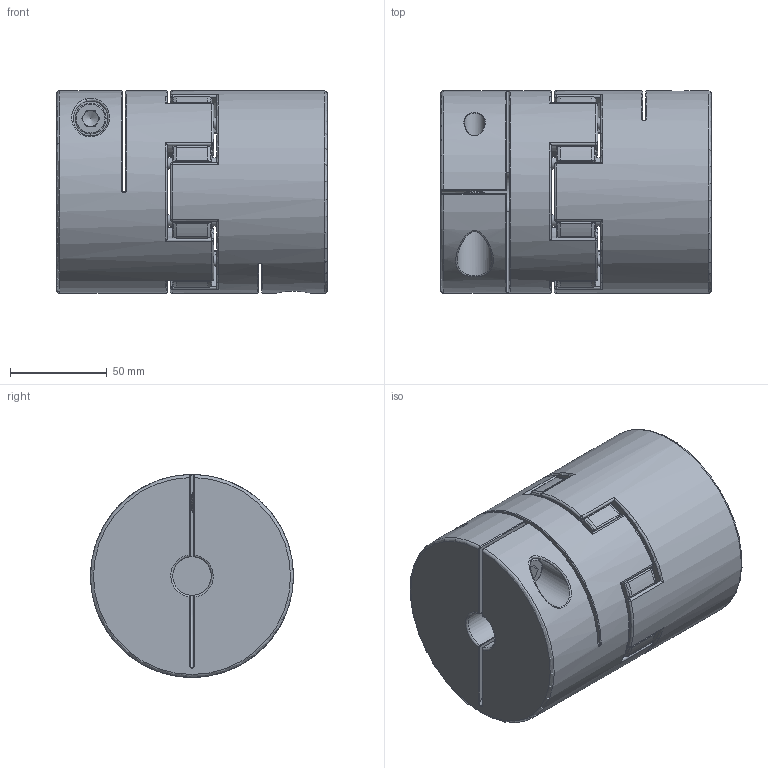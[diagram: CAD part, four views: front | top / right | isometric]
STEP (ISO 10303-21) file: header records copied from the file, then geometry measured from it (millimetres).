
FILE_DESCRIPTION(/* description */ ('STEP AP203'),/* implementation_level */ '2;1');
FILE_NAME(/* name */ 'D:\Katalogi inne\Technika liniowa\LISHUI YINGTE BEARING\sprzegla JM2\JM2-105C-RD-20-20.stp',/* time_stamp */ '2025-08-28T08:51:58+02:00',/* author */ ('dnia_tomasz_tm'),/* organization */ ('Microsoft'),/* preprocessor_version */ 'ST-DEVELOPER v16.13',/* originating_system */ 'Autodesk Inventor 2018',/* authorisation */ '');
FILE_SCHEMA (('AUTOMOTIVE_DESIGN { 1 0 10303 214 3 1 1 }'));
Length unit declared in the file: millimetre
Products named in the file (5): SHFC-105X140-20X20; 105- _X2_688582b180f6_X0_--; SHFC- 105X140--1; SHFC- 105X140--2; hexagon socket head cap screw_jis_JIS B 1176 M10 x 35 (35) --S
Assembly tree (5 placements, depth 2):
  SHFC-105X140-20X20
    105- _X2_688582b180f6_X0_--
    SHFC- 105X140--1
    SHFC- 105X140--2
    hexagon socket head cap screw_jis_JIS B 1176 M10 x 35 (35) --S  x2
Bounding box: 140 x 105 x 105 mm (x, y, z)
Volume: 1098590.2 mm3; surface area: 148939.7 mm2
Topology: 5 solids, 5 shells, 648 faces, 1573 edges, 937 vertices
Faces by surface type: cylinder 184, cone 158, torus 134, plane 100, bspline 56, sphere 16
Full cylindrical faces by diameter (mm): 6 x16, 8.5 x2, 10 x44, 10.5 x4, 16 x2, 18 x2, 20 x2, 34 x2, 105 x2
Entity records: 38911 total; most frequent: CARTESIAN_POINT 26936, DIRECTION 2490, ORIENTED_EDGE 2334, EDGE_CURVE 1167, AXIS2_PLACEMENT_3D 1121, VERTEX_POINT 749, EDGE_LOOP 714, CIRCLE 576
